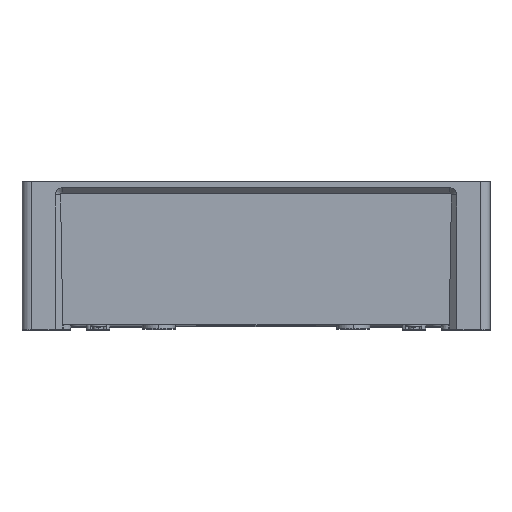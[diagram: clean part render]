
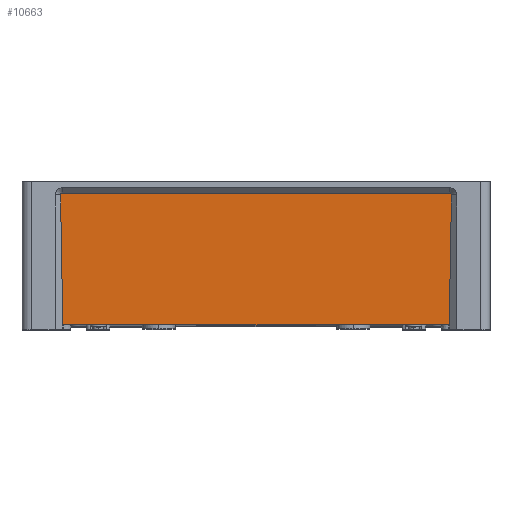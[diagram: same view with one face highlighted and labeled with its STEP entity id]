
A CAD part, top view. The second image highlights one B-rep face of the part: STEP entity #10663.
In plain terms, the highlighted planar face has unit normal (0, -0.018, 1).
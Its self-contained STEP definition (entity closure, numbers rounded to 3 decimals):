
#2445 = VERTEX_POINT ( 'NONE', #27370 ) ;
#2449 = EDGE_CURVE ( 'NONE', #2451, #2445, #27369, .T. ) ;
#2451 = VERTEX_POINT ( 'NONE', #27363 ) ;
#3520 = DIRECTION ( 'NONE',  ( 0.017, -1., -0.017 ) ) ;
#3521 = VECTOR ( 'NONE', #3520, 1000. ) ;
#3522 = CARTESIAN_POINT ( 'NONE',  ( -120.707, -8.183, 168.657 ) ) ;
#3523 = LINE ( 'NONE', #3522, #3521 ) ;
#3524 = DIRECTION ( 'NONE',  ( 1., 0., 0. ) ) ;
#3525 = VECTOR ( 'NONE', #3524, 1000. ) ;
#3526 = CARTESIAN_POINT ( 'NONE',  ( -119.55, -7.124, 168.676 ) ) ;
#3527 = LINE ( 'NONE', #3526, #3525 ) ;
#3547 = CARTESIAN_POINT ( 'NONE',  ( 120.705, -8.3, 168.655 ) ) ;
#3548 = CARTESIAN_POINT ( 'NONE',  ( 120.717, -7.614, 168.667 ) ) ;
#3549 = CARTESIAN_POINT ( 'NONE',  ( 120.236, -7.124, 168.676 ) ) ;
#3550 = CARTESIAN_POINT ( 'NONE',  ( 119.55, -7.124, 168.676 ) ) ;
#3551 =( BOUNDED_CURVE ( )  B_SPLINE_CURVE ( 3, ( #3550, #3549, #3548, #3547 ),
 .UNSPECIFIED., .F., .T. ) 
 B_SPLINE_CURVE_WITH_KNOTS ( ( 4, 4 ),
 ( 0., 1.588 ),
 .UNSPECIFIED. ) 
 CURVE ( )  GEOMETRIC_REPRESENTATION_ITEM ( )  RATIONAL_B_SPLINE_CURVE ( ( 1., 0.801, 0.801, 1. ) ) 
 REPRESENTATION_ITEM ( '' )  );
#3556 = CARTESIAN_POINT ( 'NONE',  ( 119.55, -7.124, 168.676 ) ) ;
#3566 = CARTESIAN_POINT ( 'NONE',  ( 120.705, -8.3, 168.655 ) ) ;
#3572 = DIRECTION ( 'NONE',  ( 0., -1., -0.017 ) ) ;
#3573 = DIRECTION ( 'NONE',  ( 0., -0.017, 1. ) ) ;
#3574 = CARTESIAN_POINT ( 'NONE',  ( -144.5, 0., 168.8 ) ) ;
#3575 = AXIS2_PLACEMENT_3D ( 'NONE', #3574, #3573, #3572 ) ;
#3576 = PLANE ( 'NONE',  #3575 ) ;
#3577 = FACE_OUTER_BOUND ( 'NONE', #10644, .T. ) ;
#3584 = DIRECTION ( 'NONE',  ( -0.017, -1., -0.017 ) ) ;
#3585 = VECTOR ( 'NONE', #3584, 1000. ) ;
#3586 = CARTESIAN_POINT ( 'NONE',  ( 120.707, -8.183, 168.657 ) ) ;
#3587 = LINE ( 'NONE', #3586, #3585 ) ;
#3643 = CARTESIAN_POINT ( 'NONE',  ( -119.55, -7.124, 168.676 ) ) ;
#3673 = CARTESIAN_POINT ( 'NONE',  ( -119.55, -7.124, 168.676 ) ) ;
#3674 = CARTESIAN_POINT ( 'NONE',  ( -120.236, -7.124, 168.676 ) ) ;
#3675 = CARTESIAN_POINT ( 'NONE',  ( -120.717, -7.614, 168.667 ) ) ;
#3676 = CARTESIAN_POINT ( 'NONE',  ( -120.705, -8.3, 168.655 ) ) ;
#3678 =( BOUNDED_CURVE ( )  B_SPLINE_CURVE ( 3, ( #3676, #3675, #3674, #3673 ),
 .UNSPECIFIED., .F., .T. ) 
 B_SPLINE_CURVE_WITH_KNOTS ( ( 4, 4 ),
 ( 4.695, 6.283 ),
 .UNSPECIFIED. ) 
 CURVE ( )  GEOMETRIC_REPRESENTATION_ITEM ( )  RATIONAL_B_SPLINE_CURVE ( ( 1., 0.801, 0.801, 1. ) ) 
 REPRESENTATION_ITEM ( '' )  );
#3679 = CARTESIAN_POINT ( 'NONE',  ( -120.705, -8.3, 168.655 ) ) ;
#10635 = ORIENTED_EDGE ( 'NONE', *, *, #10636, .F. ) ;
#10636 = EDGE_CURVE ( 'NONE', #10698, #10672, #3527, .T. ) ;
#10637 = EDGE_CURVE ( 'NONE', #10714, #2451, #3523, .T. ) ;
#10644 = EDGE_LOOP ( 'NONE', ( #10664, #10658, #10660, #10635, #10703, #10715 ) ) ;
#10650 = EDGE_CURVE ( 'NONE', #10672, #10666, #3551, .T. ) ;
#10658 = ORIENTED_EDGE ( 'NONE', *, *, #10659, .F. ) ;
#10659 = EDGE_CURVE ( 'NONE', #10666, #2445, #3587, .T. ) ;
#10660 = ORIENTED_EDGE ( 'NONE', *, *, #10650, .F. ) ;
#10663 = ADVANCED_FACE ( 'NONE', ( #3577 ), #3576, .T. ) ;
#10664 = ORIENTED_EDGE ( 'NONE', *, *, #2449, .T. ) ;
#10666 = VERTEX_POINT ( 'NONE', #3566 ) ;
#10672 = VERTEX_POINT ( 'NONE', #3556 ) ;
#10698 = VERTEX_POINT ( 'NONE', #3643 ) ;
#10703 = ORIENTED_EDGE ( 'NONE', *, *, #10713, .F. ) ;
#10713 = EDGE_CURVE ( 'NONE', #10714, #10698, #3678, .T. ) ;
#10714 = VERTEX_POINT ( 'NONE', #3679 ) ;
#10715 = ORIENTED_EDGE ( 'NONE', *, *, #10637, .T. ) ;
#27363 = CARTESIAN_POINT ( 'NONE',  ( -119.307, -88.4, 167.257 ) ) ;
#27365 = DIRECTION ( 'NONE',  ( 1., 0., 0. ) ) ;
#27366 = VECTOR ( 'NONE', #27365, 1000. ) ;
#27368 = CARTESIAN_POINT ( 'NONE',  ( -144.5, -88.4, 167.257 ) ) ;
#27369 = LINE ( 'NONE', #27368, #27366 ) ;
#27370 = CARTESIAN_POINT ( 'NONE',  ( 119.307, -88.4, 167.257 ) ) ;
